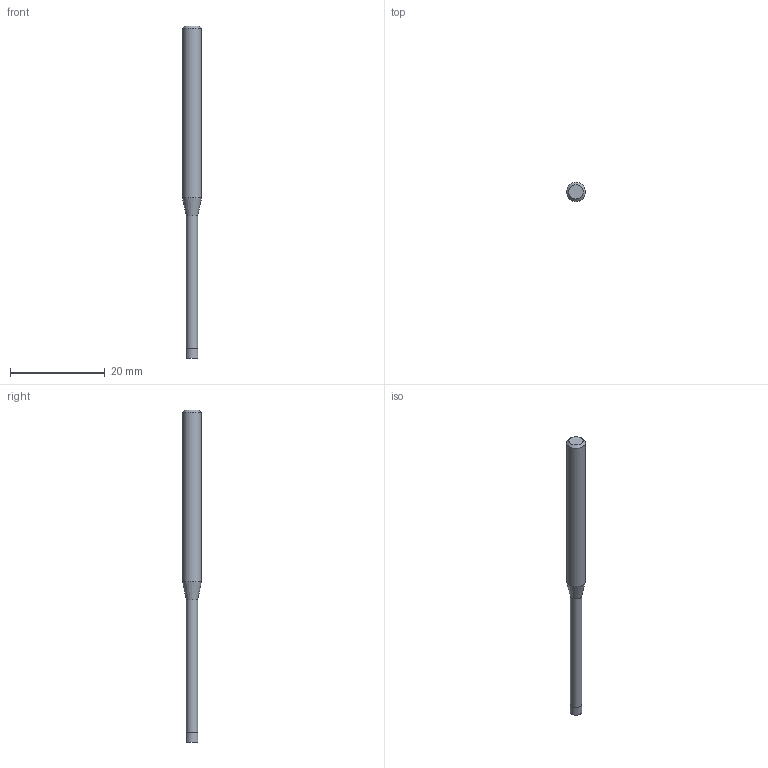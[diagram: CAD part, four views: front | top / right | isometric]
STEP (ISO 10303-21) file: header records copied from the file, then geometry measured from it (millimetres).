
FILE_DESCRIPTION((''),'2;1');
FILE_NAME('C:\Users\nsx150\AppData\Local\Temp\Mastercam 2021\RJ5U8K7RMU\TEMP.step','2021-04-21T16:42:34',(''),(''),'STEP Write','Mastercam 2021 ... CNC Software, Inc.','');
FILE_SCHEMA(('AUTOMOTIVE_DESIGN'));
Length unit declared in the file: millimetre
Products named in the file (1): None
Bounding box: 4 x 4 x 70 mm (x, y, z)
Volume: 621.3 mm3; surface area: 743.8 mm2
Topology: 2 solids, 2 shells, 9 faces, 12 edges, 7 vertices
Faces by surface type: plane 4, cylinder 3, cone 2
Full cylindrical faces by diameter (mm): 2.4 x1, 2.5 x1, 4 x1
Entity records: 211 total; most frequent: DIRECTION 36, CARTESIAN_POINT 25, AXIS2_PLACEMENT_3D 18, ORIENTED_EDGE 14, EDGE_LOOP 14, STYLED_ITEM 12, ADVANCED_FACE 9, FACE_BOUND 8
